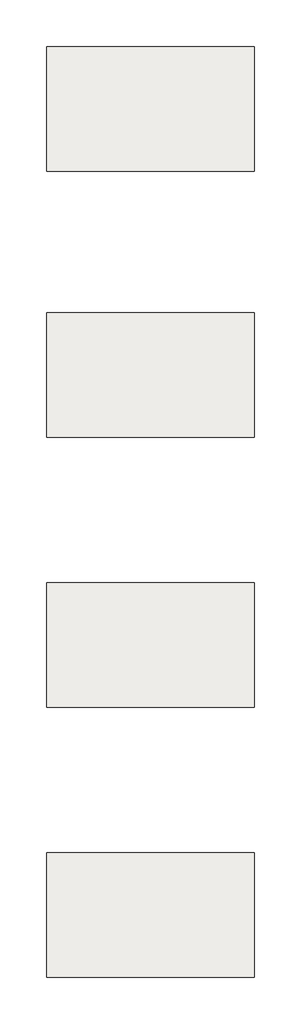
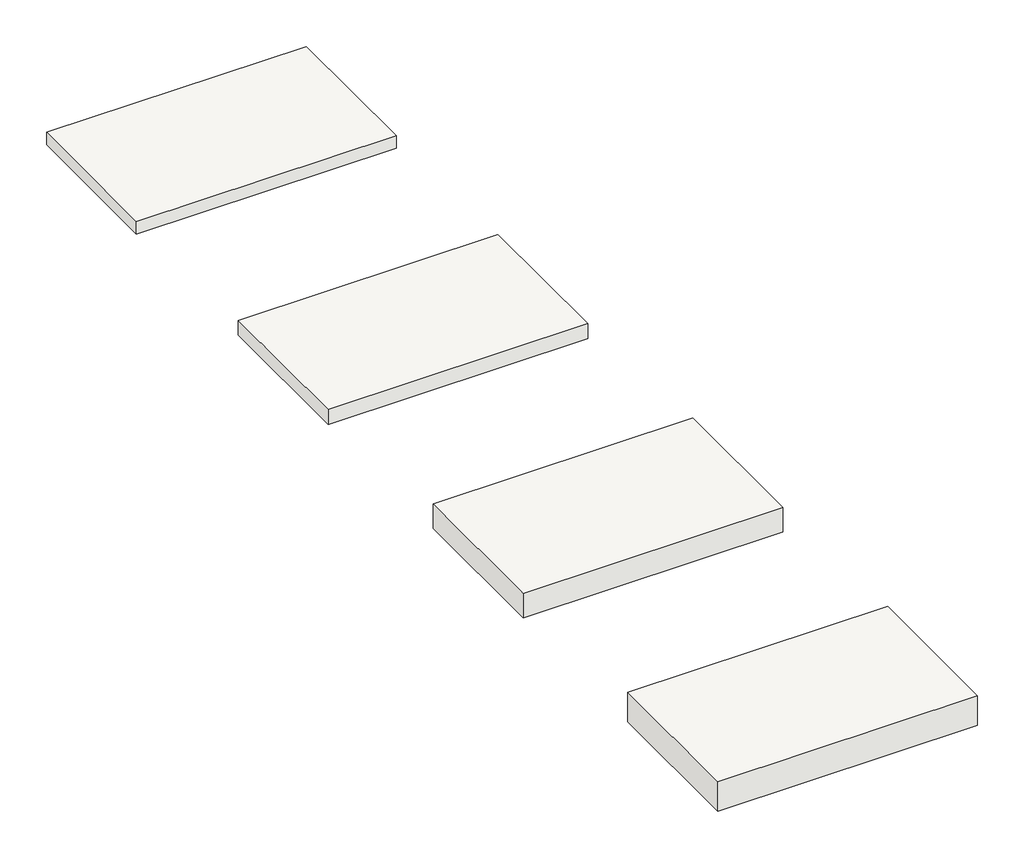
# One storey: 4 coverings.
"""IFC4 building model written with IfcOpenShell, lengths in millimetres."""

from ifc_helpers import new_model, si_unit, origin, origin_with_axes, place, context, project, spatial, polyline, outline, extrude, element, save

model = new_model("IFC4")

# Units and contexts
model_context = context("Model", 3, world=origin())
ifc_project = project(units=[si_unit("LENGTHUNIT", "METRE", prefix="MILLI")], contexts=[model_context])

# Site, building, storey
site = spatial("IfcSite", under=ifc_project)
building = spatial("IfcBuilding", under=site)
storey = spatial("IfcBuildingStorey", under=building, Name="Референтни ниво", Elevation=0.0)

# Coverings
placement = place(None, origin())
element("IfcCovering", 1, ObjectType="Knauf Insulation - NaturBoard FIT PLUS - 50 mm - 50 x 1000 x 600 mm", at=placement, inside=storey, context=model_context, shape_type="SweptSolid", body=[
    extrude(outline(polyline([(-255452.0902031, 183264.3977243), (-255452.0902031, 182664.3977243), (-256452.0902031, 182664.3977243), (-256452.0902031, 183264.3977243), (-255452.0902031, 183264.3977243)])), origin_with_axes(), (0.0, 0.0, 1.0), 50.0),
])
element("IfcCovering", 2, ObjectType="Knauf Insulation - NaturBoard FIT PLUS - 60 mm - 60 x 1000 x 600 mm", at=placement, inside=storey, context=model_context, shape_type="SweptSolid", body=[
    extrude(outline(polyline([(-255452.0902031, 181984.3977243), (-255452.0902031, 181384.3977243), (-256452.0902031, 181384.3977243), (-256452.0902031, 181984.3977243), (-255452.0902031, 181984.3977243)])), origin_with_axes(), (0.0, 0.0, 1.0), 60.0),
])
element("IfcCovering", 3, ObjectType="Knauf Insulation - NaturBoard FIT PLUS - 100 mm - 100 x 1000 x 600 mm", at=placement, inside=storey, context=model_context, shape_type="SweptSolid", body=[
    extrude(outline(polyline([(-255452.0902031, 180684.3977243), (-255452.0902031, 180084.3977243), (-256452.0902031, 180084.3977243), (-256452.0902031, 180684.3977243), (-255452.0902031, 180684.3977243)])), origin_with_axes(), (0.0, 0.0, 1.0), 100.0),
])
element("IfcCovering", 4, ObjectType="Knauf Insulation - NaturBoard FIT PLUS - 120 mm - 120 x 1000 x 600 mm", at=placement, inside=storey, context=model_context, shape_type="SweptSolid", body=[
    extrude(outline(polyline([(-255452.0902031, 179384.3977243), (-255452.0902031, 178784.3977243), (-256452.0902031, 178784.3977243), (-256452.0902031, 179384.3977243), (-255452.0902031, 179384.3977243)])), origin_with_axes(), (0.0, 0.0, 1.0), 120.0),
])

save(model, "model.ifc")
